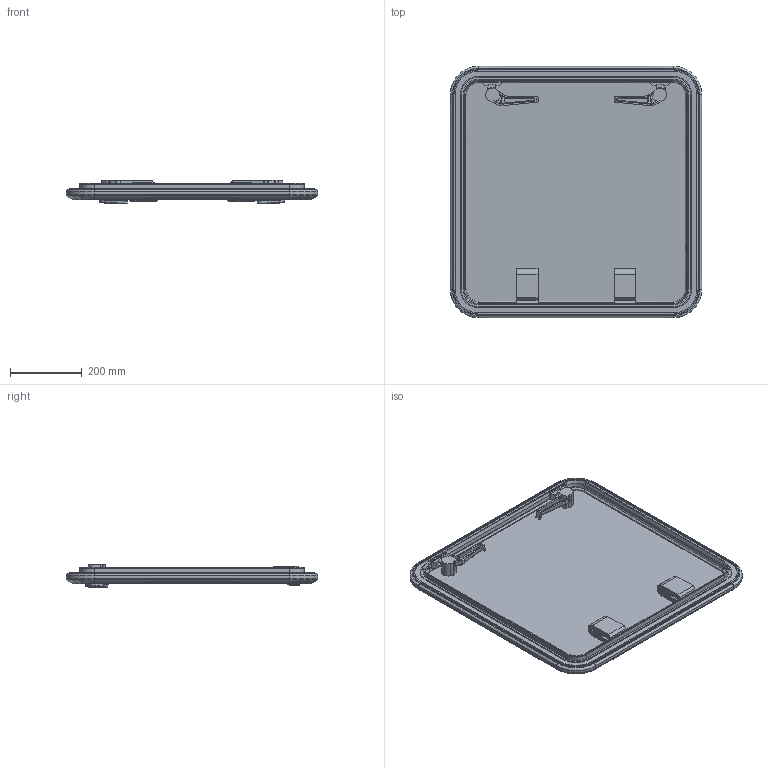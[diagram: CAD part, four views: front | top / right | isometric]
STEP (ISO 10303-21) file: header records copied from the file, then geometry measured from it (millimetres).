
FILE_DESCRIPTION((''),'2;1');
FILE_NAME('LEWMAR-HATCH-MEDPRO-70_ASM','2008-02-04T',('skennedy'),(''),'PRO/ENGINEER BY PARAMETRIC TECHNOLOGY CORPORATION, 2007030','PRO/ENGINEER BY PARAMETRIC TECHNOLOGY CORPORATION, 2007030','');
FILE_SCHEMA(('CONFIG_CONTROL_DESIGN'));
Length unit declared in the file: millimetre
Products named in the file (6): FRAME_MP_70; 3597043X; HANDLE_LHS; HANDLE_RHS; HINGE_LEVER; LEWMAR-HATCH-MEDPRO-70_ASM
Assembly tree (6 placements, depth 2):
  LEWMAR-HATCH-MEDPRO-70_ASM
    FRAME_MP_70
    3597043X
    HANDLE_LHS
    HANDLE_RHS
    HINGE_LEVER  x2
Bounding box: 698 x 698 x 65.24 mm (x, y, z)
Volume: 5458117.6 mm3; surface area: 1528855.7 mm2
Topology: 4 solids, 6 shells, 1190 faces, 3074 edges, 1918 vertices
Faces by surface type: plane 493, bspline 321, cylinder 210, extrusion 56, torus 44, cone 42, sphere 24
Entity records: 41181 total; most frequent: CARTESIAN_POINT 19366, ORIENTED_EDGE 5050, DIRECTION 3574, EDGE_CURVE 2527, VERTEX_POINT 1570, AXIS2_PLACEMENT_3D 1227, VECTOR 1120, LINE 1085
